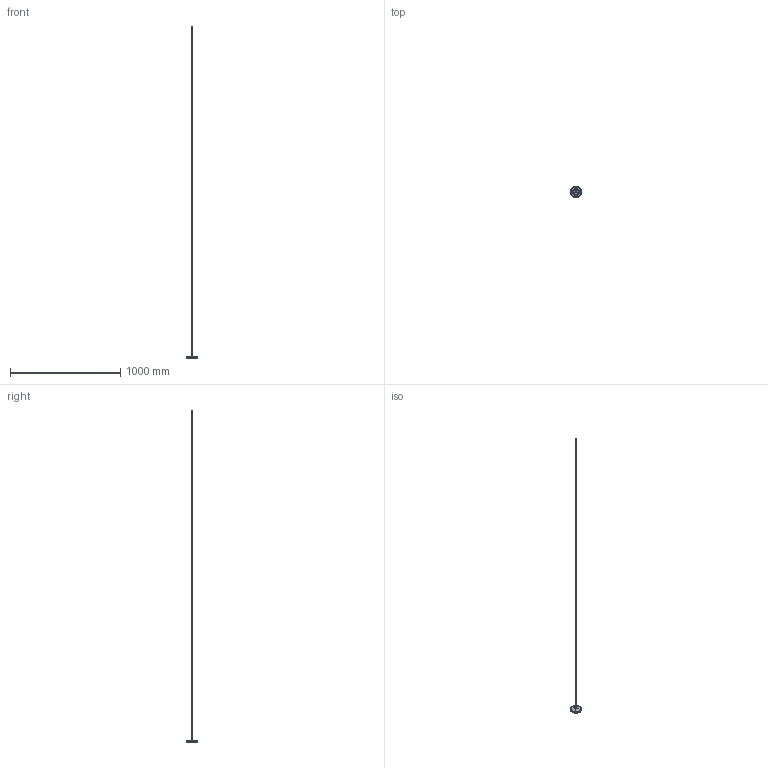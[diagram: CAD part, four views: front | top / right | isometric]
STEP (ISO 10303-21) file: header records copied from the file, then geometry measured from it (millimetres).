
FILE_DESCRIPTION(/* description */ (''),/* implementation_level */ '2;1');
FILE_NAME(/* name */ 'M052__~1',/* time_stamp */ '2024-07-04T14:25:03+02:00',/* author */ (''),/* organization */ (''),/* preprocessor_version */ 'ST-DEVELOPER v16.5',/* originating_system */ '',/* authorisation */ '');
FILE_SCHEMA (('AUTOMOTIVE_DESIGN'));
Length unit declared in the file: millimetre
Products named in the file (1): Document
Bounding box: 100.88 x 100.99 x 3010.2 mm (x, y, z)
Volume: 72777.9 mm3; surface area: 119373.3 mm2
Topology: 6 solids, 6 shells, 137 faces, 307 edges, 180 vertices
Faces by surface type: bspline 112, plane 25
Entity records: 6984 total; most frequent: CARTESIAN_POINT 5253, ORIENTED_EDGE 594, EDGE_CURVE 297, VERTEX_POINT 180, EDGE_LOOP 153, ADVANCED_FACE 137, FACE_OUTER_BOUND 137, B_SPLINE_CURVE_WITH_KNOTS 102
